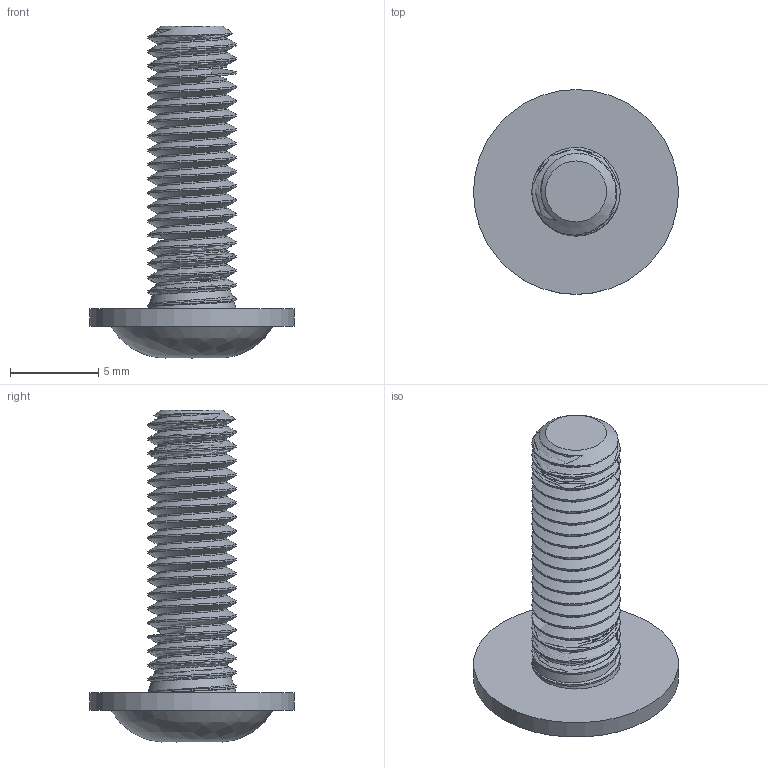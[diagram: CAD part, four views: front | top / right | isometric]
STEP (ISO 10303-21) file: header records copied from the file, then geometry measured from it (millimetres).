
FILE_DESCRIPTION((''),'2;1');
FILE_NAME('C:\Documents and Settings\Administrator\My Documents\Andys Backup Data\STEP LIBRARIES\MINITEC STEP LIBRARIES\FASTENING ELEMENTS\BUTTON HEAD FLANGE SCREWS\21.9954 M5X16 BUTTON HEAD FLANGE.stp','2010-12-03T13:47:53',('Administrator'),(''),'Autodesk Inventor 2009','Autodesk Inventor 2009','');
FILE_SCHEMA(('CONFIG_CONTROL_DESIGN'));
Length unit declared in the file: millimetre
Products named in the file (1): 21.9954 M5X16 BUTTON HEAD FLANGE
Bounding box: 11.6 x 11.6 x 18.79 mm (x, y, z)
Volume: 422.9 mm3; surface area: 663.1 mm2
Topology: 1 solids, 1 shells, 24 faces, 217 edges, 197 vertices
Faces by surface type: plane 10, cone 8, bspline 3, cylinder 3
Full cylindrical faces by diameter (mm): 11.6 x1
Entity records: 4024 total; most frequent: CARTESIAN_POINT 2849, ORIENTED_EDGE 426, EDGE_CURVE 213, VERTEX_POINT 196, DIRECTION 100, AXIS2_PLACEMENT_3D 38, EDGE_LOOP 29, FACE_OUTER_BOUND 24
